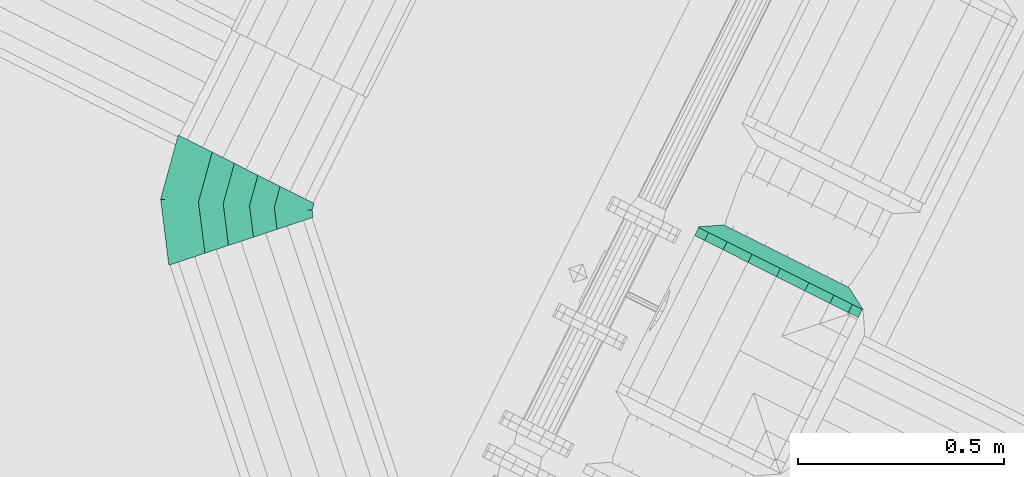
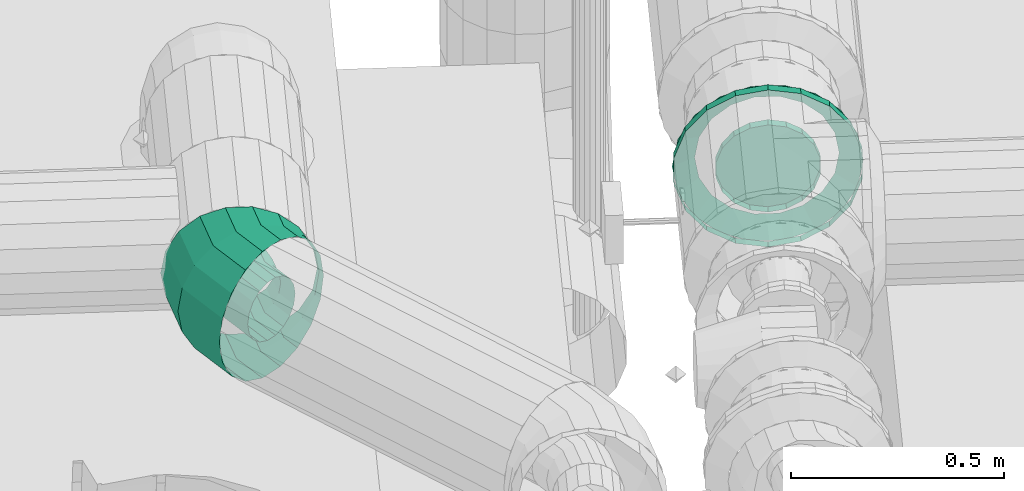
# One storey, part 125 of 206: 1 flow fitting, 1 flow segment.
"""IFC2X3 building model written with IfcOpenShell, lengths in metres."""

from ifc_helpers import new_model, si_unit, derived_unit, direction, frame, origin, place, context, subcontext, project, spatial, face_set, surface_model, source, transform, mapped, material, type_object, type_shapes, element, save


model = new_model("IFC2X3")

# Units and contexts
model_context = context("Model", 3, precision=5.2338327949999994e-05, world=origin(), true_north=direction((0.0, 1.0)))
body_context = subcontext(model_context, "Body", "Model", "MODEL_VIEW")
ifc_project = project(units=[si_unit("LENGTHUNIT", "METRE"), si_unit("AREAUNIT", "SQUARE_METRE"), si_unit("VOLUMEUNIT", "CUBIC_METRE"), si_unit("MASSUNIT", "GRAM", prefix="KILO"), si_unit("PLANEANGLEUNIT", "RADIAN"), derived_unit("THERMALTRANSMITTANCEUNIT", [(si_unit("MASSUNIT", "GRAM", prefix="KILO"), 1), (si_unit("THERMODYNAMICTEMPERATUREUNIT", "KELVIN"), -1), (si_unit("TIMEUNIT", "SECOND"), -3)])], contexts=[model_context])

# Site, building, storey
site_placement = place(None, frame((0.0, 0.0, 0.0), z_axis=(0.0, 0.0, 1.0), x_axis=(0.8939966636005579, -0.4480736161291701, 0.0)))
site = spatial("IfcSite", under=ifc_project, at=site_placement, Name="Default", CompositionType="ELEMENT")
building_placement = place(site_placement, origin())
building = spatial("IfcBuilding", under=site, at=building_placement, CompositionType="ELEMENT")
storey_placement = place(building_placement, origin())
storey = spatial("IfcBuildingStorey", under=building, at=storey_placement, Name="Erdgeschoss", CompositionType="ELEMENT", Elevation=0.0)

# Flow fitting
ifc_material_1 = material(Name="IfcSurfaceStyle #1741")
distribution_element_type_1 = type_object("IfcDistributionElementType", Name="Flansch 341081:Flansch 341081", material=ifc_material_1)
shared_shape_1 = source(origin(), body_context, "Body", "SurfaceModel", [
    surface_model("IfcFaceBasedSurfaceModel", [(25.43985543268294, 6.8589610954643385, 2.479), (25.482607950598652, 6.8589610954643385, 2.471461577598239), (25.482607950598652, 6.88096109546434, 2.471461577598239), (25.43985543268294, 6.88096109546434, 2.479), (25.52020388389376, 6.8589610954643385, 2.4497555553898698), (25.52020388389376, 6.88096109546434, 2.4497555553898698), (25.548108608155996, 6.8589610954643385, 2.416500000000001), (25.548108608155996, 6.88096109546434, 2.416500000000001), (25.562956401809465, 6.8589610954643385, 2.375706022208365), (25.562956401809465, 6.88096109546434, 2.375706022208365), (25.562956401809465, 6.8589610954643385, 2.3322939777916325), (25.562956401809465, 6.88096109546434, 2.3322939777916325), (25.548108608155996, 6.8589610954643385, 2.2914999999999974), (25.548108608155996, 6.88096109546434, 2.2914999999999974), (25.520203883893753, 6.8589610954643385, 2.2582444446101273), (25.520203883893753, 6.88096109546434, 2.2582444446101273), (25.482607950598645, 6.8589610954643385, 2.2365384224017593), (25.482607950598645, 6.88096109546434, 2.2365384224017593), (25.439855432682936, 6.8589610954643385, 2.2290000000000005), (25.439855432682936, 6.88096109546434, 2.2290000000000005), (25.39710291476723, 6.8589610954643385, 2.236538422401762), (25.39710291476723, 6.88096109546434, 2.236538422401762), (25.359506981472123, 6.8589610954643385, 2.2582444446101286), (25.359506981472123, 6.88096109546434, 2.2582444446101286), (25.33160225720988, 6.8589610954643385, 2.2915000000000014), (25.33160225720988, 6.88096109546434, 2.2915000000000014), (25.316754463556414, 6.8589610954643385, 2.3322939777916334), (25.316754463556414, 6.88096109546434, 2.3322939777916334), (25.316754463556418, 6.8589610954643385, 2.375706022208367), (25.316754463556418, 6.88096109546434, 2.375706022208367), (25.33160225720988, 6.8589610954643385, 2.4165000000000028), (25.33160225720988, 6.88096109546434, 2.4165000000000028), (25.359506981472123, 6.8589610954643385, 2.449755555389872), (25.359506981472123, 6.88096109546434, 2.449755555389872), (25.39710291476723, 6.8589610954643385, 2.471461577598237), (25.39710291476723, 6.88096109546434, 2.471461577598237), (25.43985543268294, 6.880961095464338, 2.3540000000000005), (25.517855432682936, 6.88096109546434, 2.353999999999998), (25.51315145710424, 6.88096109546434, 2.327322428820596), (25.505492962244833, 6.913961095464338, 2.330109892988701), (25.50970543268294, 6.913961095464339, 2.3539999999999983), (25.499606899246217, 6.88096109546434, 2.3038625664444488), (25.493363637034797, 6.913961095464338, 2.3091012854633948), (25.478855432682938, 6.88096109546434, 2.28645001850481), (25.474780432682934, 6.913961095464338, 2.293508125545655), (25.45339999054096, 6.88096109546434, 2.277184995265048), (25.45198475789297, 6.913961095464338, 2.2852111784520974), (25.426310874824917, 6.88096109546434, 2.277184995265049), (25.427726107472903, 6.913961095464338, 2.2852111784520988), (25.40085543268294, 6.88096109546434, 2.286450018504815), (25.40493043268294, 6.913961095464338, 2.293508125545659), (25.380103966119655, 6.8809610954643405, 2.30386256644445), (25.38634722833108, 6.913961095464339, 2.309101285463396), (25.366559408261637, 6.880961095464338, 2.3273224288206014), (25.374217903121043, 6.913961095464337, 2.330109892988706), (25.36185543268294, 6.880961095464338, 2.354000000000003), (25.37000543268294, 6.913961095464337, 2.3540000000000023), (25.36655940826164, 6.88096109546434, 2.3806775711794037), (25.374217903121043, 6.913961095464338, 2.3778901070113), (25.380103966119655, 6.88096109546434, 2.4041374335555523), (25.38634722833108, 6.913961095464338, 2.3988987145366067), (25.40085543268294, 6.88096109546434, 2.42154998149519), (25.40493043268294, 6.913961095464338, 2.4144918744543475), (25.42631087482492, 6.88096109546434, 2.4308150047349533), (25.427726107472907, 6.913961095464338, 2.422788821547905), (25.45339999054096, 6.88096109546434, 2.4308150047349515), (25.45198475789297, 6.913961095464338, 2.422788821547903), (25.47885543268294, 6.88096109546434, 2.421549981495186), (25.47478043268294, 6.913961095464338, 2.4144918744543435), (25.499606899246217, 6.88096109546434, 2.404137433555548), (25.4933636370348, 6.913961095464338, 2.3988987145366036), (25.513151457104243, 6.88096109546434, 2.3806775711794), (25.505492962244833, 6.913961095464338, 2.3778901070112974), (25.43985543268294, 6.8589610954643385, 2.579), (25.51680996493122, 6.8589610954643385, 2.5654308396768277), (25.516809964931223, 6.88096109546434, 2.565430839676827), (25.439855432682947, 6.88096109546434, 2.5789999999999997), (25.584482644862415, 6.8589610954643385, 2.526359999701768), (25.58448264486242, 6.88096109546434, 2.5263599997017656), (25.634711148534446, 6.8589610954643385, 2.466499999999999), (25.634711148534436, 6.88096109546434, 2.466499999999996), (25.66143717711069, 6.8589610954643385, 2.393070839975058), (25.661437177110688, 6.88096109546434, 2.3930708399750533), (25.66143717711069, 6.8589610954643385, 2.3149291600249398), (25.661437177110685, 6.88096109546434, 2.314929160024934), (25.634711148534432, 6.8589610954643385, 2.2415000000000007), (25.634711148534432, 6.88096109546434, 2.2414999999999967), (25.584482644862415, 6.8589610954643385, 2.181640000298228), (25.5844826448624, 6.88096109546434, 2.1816400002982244), (25.516809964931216, 6.8589610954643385, 2.14256916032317), (25.516809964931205, 6.88096109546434, 2.1425691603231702), (25.439855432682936, 6.8589610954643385, 2.128999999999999), (25.43985543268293, 6.88096109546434, 2.129000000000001), (25.362900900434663, 6.8589610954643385, 2.14256916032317), (25.362900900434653, 6.88096109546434, 2.1425691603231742), (25.295228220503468, 6.8589610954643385, 2.181640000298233), (25.295228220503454, 6.88096109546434, 2.1816400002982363), (25.244999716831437, 6.8589610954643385, 2.2414999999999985), (25.244999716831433, 6.88096109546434, 2.241500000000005), (25.2182736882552, 6.8589610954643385, 2.314929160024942), (25.218273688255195, 6.88096109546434, 2.314929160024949), (25.218273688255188, 6.8589610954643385, 2.3930708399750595), (25.218273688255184, 6.88096109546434, 2.393070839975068), (25.24499971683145, 6.8589610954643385, 2.466499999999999), (25.24499971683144, 6.88096109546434, 2.4665000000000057), (25.29522822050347, 6.8589610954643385, 2.5263599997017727), (25.29522822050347, 6.88096109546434, 2.5263599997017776), (25.362900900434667, 6.8589610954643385, 2.565430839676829), (25.362900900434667, 6.88096109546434, 2.5654308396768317), (25.664855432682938, 6.88096109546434, 2.353999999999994), (25.651286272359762, 6.88096109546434, 2.2770454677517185), (25.599462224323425, 6.913961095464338, 2.2959078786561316), (25.60970543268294, 6.913961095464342, 2.353999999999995), (25.612215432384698, 6.8809610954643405, 2.2093727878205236), (25.569968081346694, 6.913961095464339, 2.244822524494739), (25.552355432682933, 6.8809610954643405, 2.1591442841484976), (25.52478043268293, 6.913961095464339, 2.2069055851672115), (25.478926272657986, 6.880961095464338, 2.1324182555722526), (25.469349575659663, 6.913961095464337, 2.1867304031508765), (25.40078459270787, 6.88096109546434, 2.1324182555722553), (25.410361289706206, 6.913961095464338, 2.1867304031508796), (25.327355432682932, 6.88096109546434, 2.159144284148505), (25.354930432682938, 6.913961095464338, 2.2069055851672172), (25.26749543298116, 6.88096109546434, 2.209372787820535), (25.30974278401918, 6.913961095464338, 2.2448225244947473), (25.228424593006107, 6.880961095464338, 2.2770454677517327), (25.28024864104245, 6.913961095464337, 2.2959078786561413), (25.214855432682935, 6.8809610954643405, 2.354000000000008), (25.270005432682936, 6.913961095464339, 2.354000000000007), (25.22842459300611, 6.880961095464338, 2.430954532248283), (25.28024864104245, 6.913961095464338, 2.4120921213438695), (25.267495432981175, 6.8809610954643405, 2.498627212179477), (25.309742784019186, 6.913961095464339, 2.463177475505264), (25.32735543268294, 6.880961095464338, 2.5488557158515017), (25.354930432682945, 6.913961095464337, 2.50109441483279), (25.400784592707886, 6.880961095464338, 2.5755817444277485), (25.410361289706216, 6.913961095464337, 2.521269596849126), (25.478926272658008, 6.88096109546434, 2.5755817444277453), (25.46934957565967, 6.913961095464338, 2.521269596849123), (25.55235543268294, 6.88096109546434, 2.5488557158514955), (25.52478043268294, 6.913961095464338, 2.5010944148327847), (25.612215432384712, 6.8809610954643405, 2.498627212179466), (25.569968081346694, 6.913961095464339, 2.463177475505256), (25.65128627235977, 6.880961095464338, 2.430954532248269), (25.59946222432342, 6.913961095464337, 2.412092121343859)], [face_set([[[0, 1, 2, 3]], [[1, 4, 5, 2]], [[4, 6, 7, 5]], [[6, 8, 9, 7]], [[8, 10, 11, 9]], [[10, 12, 13, 11]], [[12, 14, 15, 13]], [[14, 16, 17, 15]], [[16, 18, 19, 17]], [[18, 20, 21, 19]], [[20, 22, 23, 21]], [[22, 24, 25, 23]], [[24, 26, 27, 25]], [[26, 28, 29, 27]], [[28, 30, 31, 29]], [[30, 32, 33, 31]], [[32, 34, 35, 33]], [[34, 0, 3, 35]], [[36, 35, 3]], [[36, 33, 35]], [[36, 31, 33]], [[36, 29, 31]], [[36, 27, 29]], [[36, 25, 27]], [[36, 23, 25]], [[36, 21, 23]], [[36, 19, 21]], [[36, 17, 19]], [[36, 15, 17]], [[36, 13, 15]], [[36, 11, 13]], [[36, 9, 11]], [[36, 7, 9]], [[36, 5, 7]], [[36, 2, 5]], [[36, 3, 2]], [[37, 38, 39, 40]], [[38, 41, 42, 39]], [[41, 43, 44, 42]], [[43, 45, 46, 44]], [[45, 47, 48, 46]], [[47, 49, 50, 48]], [[49, 51, 52, 50]], [[51, 53, 54, 52]], [[53, 55, 56, 54]], [[55, 57, 58, 56]], [[57, 59, 60, 58]], [[59, 61, 62, 60]], [[61, 63, 64, 62]], [[63, 65, 66, 64]], [[65, 67, 68, 66]], [[67, 69, 70, 68]], [[69, 71, 72, 70]], [[71, 37, 40, 72]], [[73, 74, 75, 76]], [[74, 77, 78, 75]], [[77, 79, 80, 78]], [[79, 81, 82, 80]], [[81, 83, 84, 82]], [[83, 85, 86, 84]], [[85, 87, 88, 86]], [[87, 89, 90, 88]], [[89, 91, 92, 90]], [[91, 93, 94, 92]], [[93, 95, 96, 94]], [[95, 97, 98, 96]], [[97, 99, 100, 98]], [[99, 101, 102, 100]], [[101, 103, 104, 102]], [[103, 105, 106, 104]], [[105, 107, 108, 106]], [[107, 73, 76, 108]], [[109, 110, 111, 112]], [[110, 113, 114, 111]], [[113, 115, 116, 114]], [[115, 117, 118, 116]], [[117, 119, 120, 118]], [[119, 121, 122, 120]], [[121, 123, 124, 122]], [[123, 125, 126, 124]], [[125, 127, 128, 126]], [[127, 129, 130, 128]], [[129, 131, 132, 130]], [[131, 133, 134, 132]], [[133, 135, 136, 134]], [[135, 137, 138, 136]], [[137, 139, 140, 138]], [[139, 141, 142, 140]], [[141, 143, 144, 142]], [[143, 109, 112, 144]]])]),
])
type_shapes(distribution_element_type_1, [shared_shape_1])
flow_fitting_placement = place(storey_placement, origin())
element("IfcFlowFitting", 1, at=flow_fitting_placement, inside=storey, type_object=distribution_element_type_1, material=ifc_material_1, Name="Flansch", ObjectType="Flansch", context=body_context, shape_type="MappedRepresentation", body=[
    mapped(shared_shape_1, transform((0.0, 0.0, 0.0), scale=1.0)),
])

# Flow segment
ifc_material_2 = material(Name="IfcSurfaceStyle #9317")
distribution_element_type_2 = type_object("IfcDistributionElementType", Name="Rohrbogen 342059:Rohrbogen 342059", material=ifc_material_2)
shared_shape_2 = source(origin(), body_context, "Body", "SurfaceModel", [
    surface_model("IfcFaceBasedSurfaceModel", [(24.090671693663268, 6.515961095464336, 2.353999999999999), (24.095746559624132, 6.515961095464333, 2.325219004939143), (24.11919738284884, 6.398065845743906, 2.325219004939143), (24.11450881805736, 6.396123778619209, 2.354000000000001), (24.18597967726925, 6.298119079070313, 2.3252190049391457), (24.182391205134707, 6.294530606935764, 2.354000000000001), (24.11035905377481, 6.515961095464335, 2.299909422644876), (24.132697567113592, 6.4036578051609, 2.299909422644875), (24.19631227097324, 6.308451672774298, 2.2999094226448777), (24.132746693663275, 6.515961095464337, 2.2811239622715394), (24.15338104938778, 6.41222518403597, 2.281123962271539), (24.212142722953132, 6.324282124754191, 2.281123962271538), (24.160209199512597, 6.515961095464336, 2.271128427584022), (24.178753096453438, 6.422734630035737, 2.271128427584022), (24.23156164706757, 6.343701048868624, 2.271128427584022), (24.18943418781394, 6.515961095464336, 2.271128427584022), (24.205753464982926, 6.433918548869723, 2.271128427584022), (24.252226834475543, 6.364366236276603, 2.271128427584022), (24.216896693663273, 6.515961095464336, 2.2811239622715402), (24.2311255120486, 6.444427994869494, 2.2811239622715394), (24.27164575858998, 6.3837851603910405, 2.2811239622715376), (24.239284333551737, 6.515961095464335, 2.2999094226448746), (24.251808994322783, 6.45299537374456, 2.299909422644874), (24.287476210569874, 6.399615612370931, 2.2999094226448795), (24.253896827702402, 6.515961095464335, 2.3252190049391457), (24.265309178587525, 6.458587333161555, 2.3252190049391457), (24.297808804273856, 6.4099482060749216, 2.325219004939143), (24.25897169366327, 6.515961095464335, 2.354000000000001), (24.269997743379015, 6.460529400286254, 2.354000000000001), (24.3013972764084, 6.413536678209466, 2.353999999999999), (24.253896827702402, 6.515961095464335, 2.3827809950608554), (24.265309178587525, 6.458587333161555, 2.382780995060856), (24.297808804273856, 6.409948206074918, 2.3827809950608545), (24.239284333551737, 6.515961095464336, 2.408090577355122), (24.251808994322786, 6.452995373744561, 2.4080905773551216), (24.287476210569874, 6.399615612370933, 2.4080905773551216), (24.216896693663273, 6.515961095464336, 2.4268760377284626), (24.2311255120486, 6.444427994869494, 2.426876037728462), (24.271645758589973, 6.383785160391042, 2.426876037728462), (24.189434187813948, 6.515961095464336, 2.4368715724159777), (24.205753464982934, 6.433918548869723, 2.4368715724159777), (24.252226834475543, 6.364366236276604, 2.4368715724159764), (24.160209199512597, 6.515961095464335, 2.436871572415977), (24.178753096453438, 6.422734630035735, 2.436871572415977), (24.23156164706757, 6.343701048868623, 2.436871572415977), (24.132746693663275, 6.515961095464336, 2.426876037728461), (24.153381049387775, 6.412225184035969, 2.42687603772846), (24.21214272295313, 6.324282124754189, 2.426876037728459), (24.110359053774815, 6.515961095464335, 2.4080905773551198), (24.132697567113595, 6.4036578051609, 2.4080905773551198), (24.19631227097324, 6.3084516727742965, 2.4080905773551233), (24.09574655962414, 6.515961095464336, 2.382780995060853), (24.119197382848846, 6.398065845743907, 2.382780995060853), (24.185979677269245, 6.298119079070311, 2.382780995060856), (23.99067169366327, 6.5159610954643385, 2.353999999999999), (24.001777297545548, 6.515961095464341, 2.2910169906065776), (24.032381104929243, 6.3621053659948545, 2.2910169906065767), (24.022120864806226, 6.3578554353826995, 2.3539999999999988), (24.11953337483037, 6.231672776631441, 2.291016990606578), (24.111680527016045, 6.223819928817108, 2.3539999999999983), (24.033754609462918, 6.51596109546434, 2.235630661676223), (24.061924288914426, 6.374342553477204, 2.2356306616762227), (24.142144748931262, 6.2542841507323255, 2.2356306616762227), (24.082746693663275, 6.515961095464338, 2.1945214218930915), (24.10718707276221, 6.393091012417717, 2.1945214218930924), (24.17678738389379, 6.288926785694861, 2.1945214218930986), (24.14284438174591, 6.515961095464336, 2.1726476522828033), (24.162710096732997, 6.416089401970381, 2.172647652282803), (24.21928286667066, 6.3314222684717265, 2.172647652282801), (24.206799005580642, 6.515961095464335, 2.1726476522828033), (24.221796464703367, 6.440563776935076, 2.1726476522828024), (24.264505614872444, 6.376645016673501, 2.1726476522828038), (24.26689669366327, 6.515961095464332, 2.1945214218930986), (24.277319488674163, 6.463562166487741, 2.1945214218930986), (24.3070010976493, 6.419140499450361, 2.1945214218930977), (24.315888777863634, 6.515961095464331, 2.235630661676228), (24.32258227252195, 6.482310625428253, 2.235630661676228), (24.341643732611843, 6.453783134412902, 2.2356306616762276), (24.347866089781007, 6.515961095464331, 2.2910169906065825), (24.352125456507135, 6.494547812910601, 2.291016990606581), (24.36425510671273, 6.476394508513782, 2.291016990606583), (24.358971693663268, 6.5159610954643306, 2.354000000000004), (24.362385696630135, 6.498797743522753, 2.3540000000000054), (24.37210795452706, 6.484247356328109, 2.3540000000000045), (24.347866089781, 6.5159610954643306, 2.4169830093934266), (24.35212545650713, 6.494547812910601, 2.4169830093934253), (24.364255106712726, 6.476394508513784, 2.4169830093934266), (24.31588877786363, 6.515961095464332, 2.4723693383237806), (24.32258227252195, 6.482310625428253, 2.472369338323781), (24.341643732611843, 6.453783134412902, 2.472369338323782), (24.26689669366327, 6.515961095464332, 2.5134785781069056), (24.27731948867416, 6.46356216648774, 2.5134785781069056), (24.3070010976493, 6.419140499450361, 2.5134785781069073), (24.20679900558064, 6.515961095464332, 2.5353523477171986), (24.221796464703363, 6.4405637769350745, 2.535352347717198), (24.264505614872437, 6.376645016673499, 2.5353523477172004), (24.142844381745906, 6.515961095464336, 2.5353523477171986), (24.162710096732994, 6.416089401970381, 2.535352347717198), (24.219282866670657, 6.331422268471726, 2.535352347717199), (24.082746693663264, 6.515961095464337, 2.5134785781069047), (24.107187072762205, 6.393091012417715, 2.5134785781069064), (24.176787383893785, 6.28892678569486, 2.513478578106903), (24.03375460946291, 6.515961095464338, 2.4723693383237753), (24.061924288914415, 6.374342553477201, 2.4723693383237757), (24.14214474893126, 6.2542841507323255, 2.472369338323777), (24.00177729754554, 6.51596109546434, 2.4169830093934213), (24.032381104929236, 6.362105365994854, 2.416983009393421), (24.119533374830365, 6.231672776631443, 2.416983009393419)], [face_set([[[0, 1, 2, 3]], [[3, 2, 4, 5]], [[1, 6, 7, 2]], [[2, 7, 8, 4]], [[6, 9, 10, 7]], [[7, 10, 11, 8]], [[9, 12, 13, 10]], [[10, 13, 14, 11]], [[12, 15, 16, 13]], [[13, 16, 17, 14]], [[15, 18, 19, 16]], [[16, 19, 20, 17]], [[18, 21, 22, 19]], [[19, 22, 23, 20]], [[21, 24, 25, 22]], [[22, 25, 26, 23]], [[24, 27, 28, 25]], [[25, 28, 29, 26]], [[27, 30, 31, 28]], [[28, 31, 32, 29]], [[30, 33, 34, 31]], [[31, 34, 35, 32]], [[33, 36, 37, 34]], [[34, 37, 38, 35]], [[36, 39, 40, 37]], [[37, 40, 41, 38]], [[39, 42, 43, 40]], [[40, 43, 44, 41]], [[42, 45, 46, 43]], [[43, 46, 47, 44]], [[45, 48, 49, 46]], [[46, 49, 50, 47]], [[48, 51, 52, 49]], [[49, 52, 53, 50]], [[51, 0, 3, 52]], [[52, 3, 5, 53]], [[54, 55, 56, 57]], [[57, 56, 58, 59]], [[55, 60, 61, 56]], [[56, 61, 62, 58]], [[60, 63, 64, 61]], [[61, 64, 65, 62]], [[63, 66, 67, 64]], [[64, 67, 68, 65]], [[66, 69, 70, 67]], [[67, 70, 71, 68]], [[69, 72, 73, 70]], [[70, 73, 74, 71]], [[72, 75, 76, 73]], [[73, 76, 77, 74]], [[75, 78, 79, 76]], [[76, 79, 80, 77]], [[78, 81, 82, 79]], [[79, 82, 83, 80]], [[81, 84, 85, 82]], [[82, 85, 86, 83]], [[84, 87, 88, 85]], [[85, 88, 89, 86]], [[87, 90, 91, 88]], [[88, 91, 92, 89]], [[90, 93, 94, 91]], [[91, 94, 95, 92]], [[93, 96, 97, 94]], [[94, 97, 98, 95]], [[96, 99, 100, 97]], [[97, 100, 101, 98]], [[99, 102, 103, 100]], [[100, 103, 104, 101]], [[102, 105, 106, 103]], [[103, 106, 107, 104]], [[105, 54, 57, 106]], [[106, 57, 59, 107]]])]),
])
type_shapes(distribution_element_type_2, [shared_shape_2])
flow_segment_placement = place(storey_placement, origin())
element("IfcFlowSegment", 2, at=flow_segment_placement, inside=storey, type_object=distribution_element_type_2, material=ifc_material_2, Name="Rohrbogen", ObjectType="Rohrbogen", context=body_context, shape_type="MappedRepresentation", body=[
    mapped(shared_shape_2, transform((0.0, 0.0, 0.0), scale=1.0)),
])

save(model, "model.ifc")
